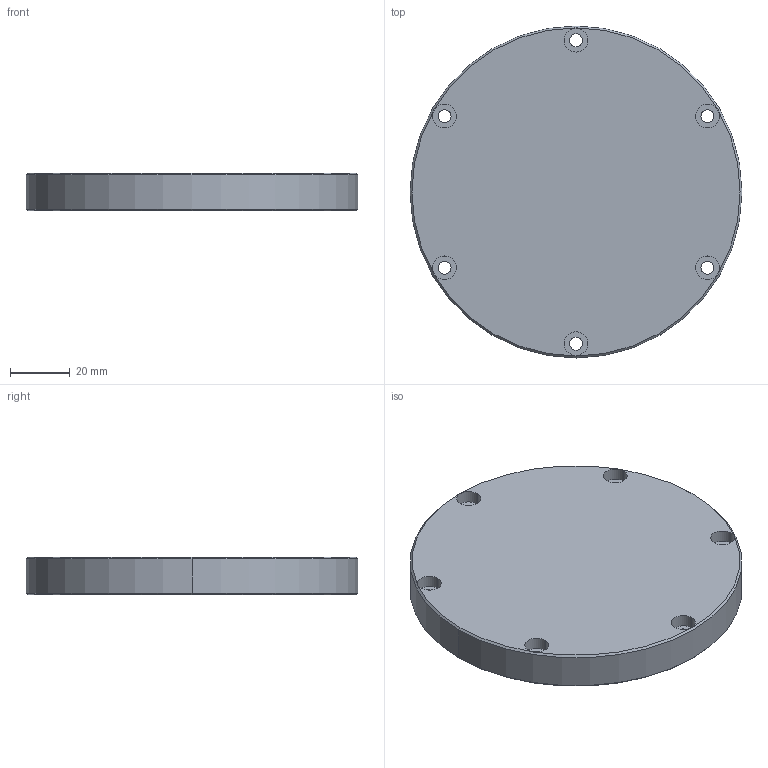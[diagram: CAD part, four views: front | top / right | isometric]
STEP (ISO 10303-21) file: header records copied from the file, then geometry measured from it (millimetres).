
FILE_DESCRIPTION(('FreeCAD Model'),'2;1');
FILE_NAME('Open CASCADE Shape Model','2025-03-27T12:04:55',(''),(''), 'Open CASCADE STEP processor 7.6','FreeCAD','Unknown');
FILE_SCHEMA(('CONFIG_CONTROL_DESIGN','SHAPE_APPEARANCE_LAYER_MIM'));
Length unit declared in the file: millimetre
Products named in the file (1): BoardPassthoughExternalFlange
Bounding box: 111.12 x 111.12 x 12.7 mm (x, y, z)
Volume: 85837.8 mm3; surface area: 26939.1 mm2
Topology: 1 solids, 1 shells, 59 faces, 128 edges, 80 vertices
Faces by surface type: cylinder 32, plane 11, cone 6, torus 6, bspline 4
Entity records: 3636 total; most frequent: CARTESIAN_POINT 2212, DIRECTION 322, ORIENTED_EDGE 256, AXIS2_PLACEMENT_3D 142, EDGE_CURVE 128, CIRCLE 86, FACE_BOUND 80, EDGE_LOOP 80
